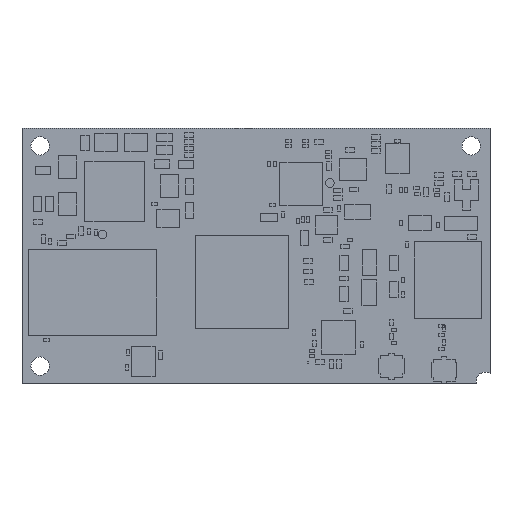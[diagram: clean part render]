
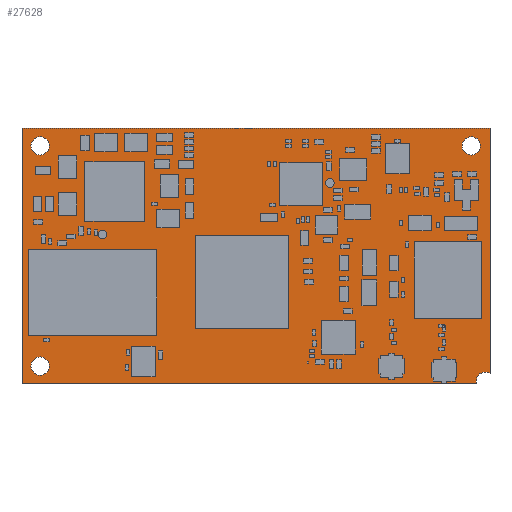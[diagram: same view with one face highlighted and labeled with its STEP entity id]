
A CAD part, top view. The second image highlights one B-rep face of the part: STEP entity #27628.
In plain terms, the highlighted planar face has unit normal (0, 0, 1).
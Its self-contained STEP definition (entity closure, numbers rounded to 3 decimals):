
#2310=FACE_BOUND('',#5822,.T.);
#2311=FACE_BOUND('',#5823,.T.);
#2312=FACE_BOUND('',#5824,.T.);
#2318=PLANE('',#32834);
#4066=FACE_OUTER_BOUND('',#5821,.T.);
#5821=EDGE_LOOP('',(#20571,#20572,#20573,#20574,#20575));
#5822=EDGE_LOOP('',(#20576));
#5823=EDGE_LOOP('',(#20577));
#5824=EDGE_LOOP('',(#20578));
#7573=LINE('',#43402,#11097);
#7578=LINE('',#43417,#11102);
#7580=LINE('',#43421,#11104);
#7582=LINE('',#43424,#11106);
#11097=VECTOR('',#35190,10.);
#11102=VECTOR('',#35205,10.);
#11104=VECTOR('',#35209,10.);
#11106=VECTOR('',#35213,10.);
#14616=CIRCLE('',#32819,1.08);
#14618=CIRCLE('',#32822,1.08);
#14619=CIRCLE('',#32824,1.08);
#14622=CIRCLE('',#32830,1.08);
#14632=VERTEX_POINT('',#43379);
#14634=VERTEX_POINT('',#43385);
#14635=VERTEX_POINT('',#43389);
#14637=VERTEX_POINT('',#43392);
#14640=VERTEX_POINT('',#43400);
#14644=VERTEX_POINT('',#43412);
#14645=VERTEX_POINT('',#43416);
#14646=VERTEX_POINT('',#43420);
#16993=EDGE_CURVE('',#14632,#14632,#14616,.T.);
#16996=EDGE_CURVE('',#14634,#14634,#14618,.T.);
#16998=EDGE_CURVE('',#14637,#14635,#14619,.T.);
#17003=EDGE_CURVE('',#14635,#14640,#7573,.T.);
#17009=EDGE_CURVE('',#14644,#14644,#14622,.T.);
#17010=EDGE_CURVE('',#14645,#14637,#7578,.T.);
#17012=EDGE_CURVE('',#14646,#14645,#7580,.T.);
#17014=EDGE_CURVE('',#14640,#14646,#7582,.T.);
#20571=ORIENTED_EDGE('',*,*,#16998,.T.);
#20572=ORIENTED_EDGE('',*,*,#17003,.T.);
#20573=ORIENTED_EDGE('',*,*,#17014,.T.);
#20574=ORIENTED_EDGE('',*,*,#17012,.T.);
#20575=ORIENTED_EDGE('',*,*,#17010,.T.);
#20576=ORIENTED_EDGE('',*,*,#16993,.T.);
#20577=ORIENTED_EDGE('',*,*,#16996,.T.);
#20578=ORIENTED_EDGE('',*,*,#17009,.T.);
#27628=ADVANCED_FACE('',(#4066,#2310,#2311,#2312),#2318,.T.);
#32819=AXIS2_PLACEMENT_3D('',#43381,#35169,#35170);
#32822=AXIS2_PLACEMENT_3D('',#43387,#35176,#35177);
#32824=AXIS2_PLACEMENT_3D('',#43393,#35181,#35182);
#32830=AXIS2_PLACEMENT_3D('',#43414,#35201,#35202);
#32834=AXIS2_PLACEMENT_3D('',#43425,#35214,#35215);
#35169=DIRECTION('center_axis',(0.,0.,-1.));
#35170=DIRECTION('ref_axis',(1.,0.,0.));
#35176=DIRECTION('center_axis',(0.,0.,-1.));
#35177=DIRECTION('ref_axis',(1.,0.,0.));
#35181=DIRECTION('center_axis',(0.,0.,-1.));
#35182=DIRECTION('ref_axis',(1.,0.,0.));
#35190=DIRECTION('',(0.,1.,0.));
#35201=DIRECTION('center_axis',(0.,0.,-1.));
#35202=DIRECTION('ref_axis',(1.,0.,0.));
#35205=DIRECTION('',(1.,0.,0.));
#35209=DIRECTION('',(0.,-1.,0.));
#35213=DIRECTION('',(-1.,0.,0.));
#35214=DIRECTION('center_axis',(0.,0.,1.));
#35215=DIRECTION('ref_axis',(1.,0.,0.));
#43379=CARTESIAN_POINT('',(7.086,28.029,0.664));
#43381=CARTESIAN_POINT('Origin',(8.166,28.029,0.664));
#43385=CARTESIAN_POINT('',(57.922,28.029,0.664));
#43387=CARTESIAN_POINT('Origin',(59.001,28.029,0.664));
#43389=CARTESIAN_POINT('',(61.211,1.198,0.664));
#43392=CARTESIAN_POINT('',(59.601,0.,0.664));
#43393=CARTESIAN_POINT('Origin',(60.643,0.279,0.664));
#43400=CARTESIAN_POINT('',(61.211,30.112,0.664));
#43402=CARTESIAN_POINT('',(61.211,30.112,0.664));
#43412=CARTESIAN_POINT('',(7.086,2.083,0.664));
#43414=CARTESIAN_POINT('Origin',(8.166,2.083,0.664));
#43416=CARTESIAN_POINT('',(6.032,0.,0.664));
#43417=CARTESIAN_POINT('',(61.211,0.,0.664));
#43420=CARTESIAN_POINT('',(6.032,30.112,0.664));
#43421=CARTESIAN_POINT('',(6.032,0.,0.664));
#43424=CARTESIAN_POINT('',(6.032,30.112,0.664));
#43425=CARTESIAN_POINT('Origin',(33.621,15.056,0.664));
